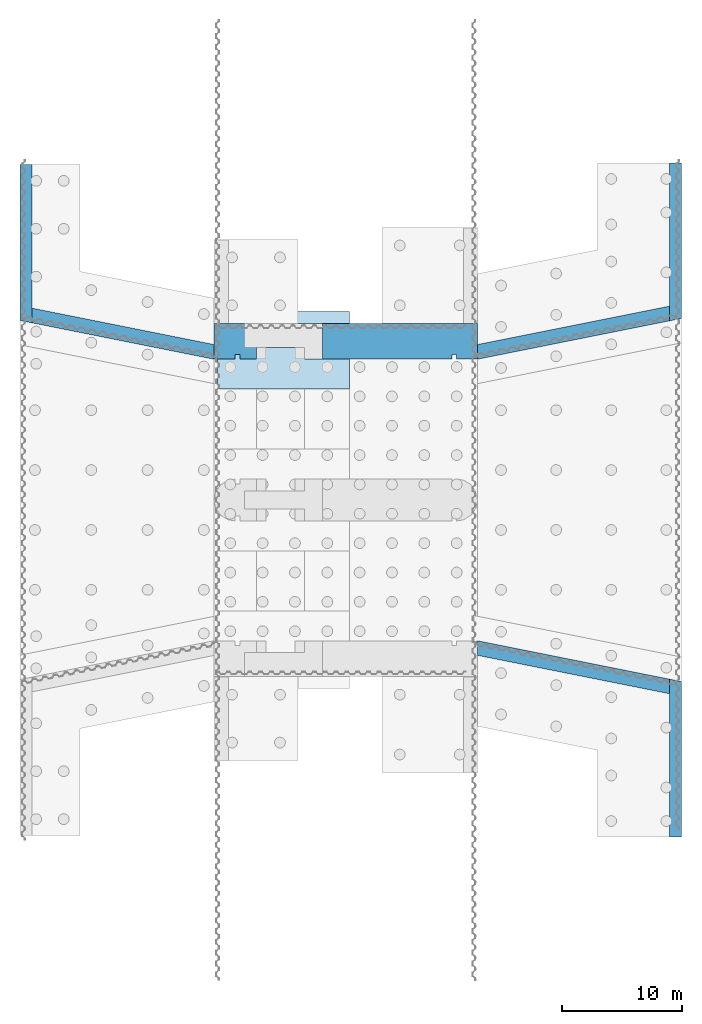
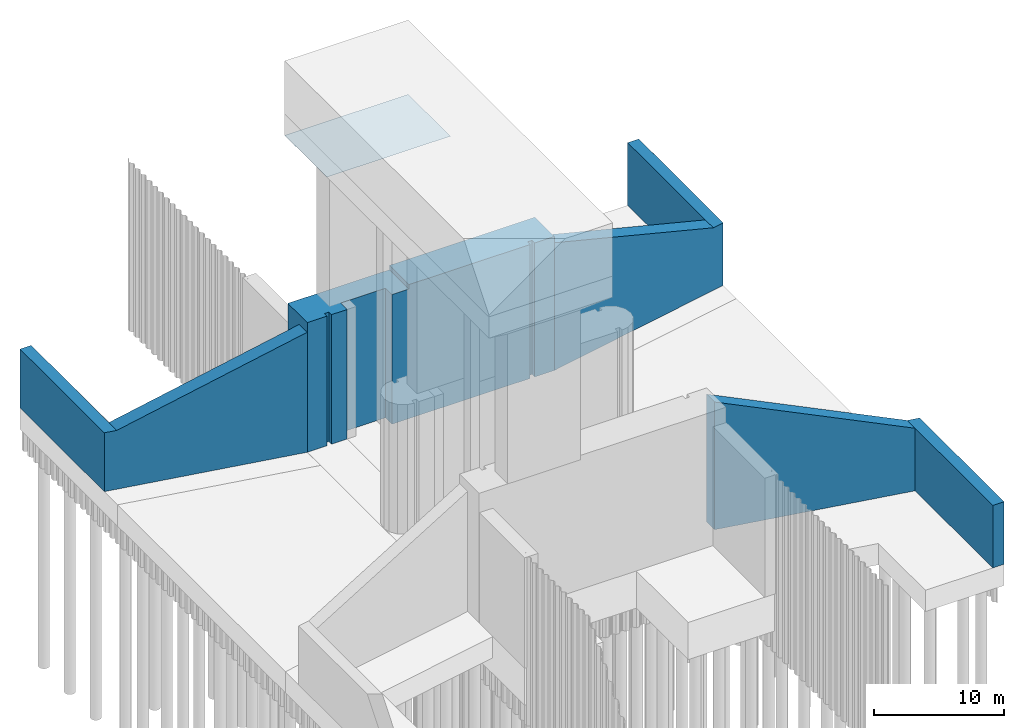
# One storey, part 9 of 9: 6 slabs.
"""IFC2X3 building model written with IfcOpenShell, lengths in millimetres."""

from ifc_helpers import new_model, entity, si_unit, converted_unit, derived_unit, direction, frame, origin, place, context, subcontext, project, spatial, faceted_brep, material, type_object, element, save


model = new_model("IFC2X3")

# Units and contexts
model_context = context("Model", 3, precision=0.01, world=origin(), true_north=direction((6.12303176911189e-17, 1.0)))
body_context = subcontext(model_context, "Body", "Model", "MODEL_VIEW")
ifc_project = project(units=[si_unit("LENGTHUNIT", "METRE", prefix="MILLI"), si_unit("AREAUNIT", "SQUARE_METRE"), si_unit("VOLUMEUNIT", "CUBIC_METRE"), converted_unit("PLANEANGLEUNIT", "DEGREE", entity("IfcRatioMeasure", 0.0174532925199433), si_unit("PLANEANGLEUNIT", "RADIAN"), dimensions=[0, 0, 0, 0, 0, 0, 0]), si_unit("MASSUNIT", "GRAM", prefix="KILO"), derived_unit("MASSDENSITYUNIT", [(si_unit("MASSUNIT", "GRAM", prefix="KILO"), 1), (si_unit("LENGTHUNIT", "METRE"), -3)]), si_unit("TIMEUNIT", "SECOND"), si_unit("FREQUENCYUNIT", "HERTZ"), si_unit("THERMODYNAMICTEMPERATUREUNIT", "DEGREE_CELSIUS"), derived_unit("THERMALTRANSMITTANCEUNIT", [(si_unit("MASSUNIT", "GRAM", prefix="KILO"), 1), (si_unit("THERMODYNAMICTEMPERATUREUNIT", "KELVIN"), -1), (si_unit("TIMEUNIT", "SECOND"), -3)]), derived_unit("VOLUMETRICFLOWRATEUNIT", [(si_unit("LENGTHUNIT", "METRE"), 3), (si_unit("TIMEUNIT", "SECOND"), -1)]), si_unit("ELECTRICCURRENTUNIT", "AMPERE"), si_unit("ELECTRICVOLTAGEUNIT", "VOLT"), si_unit("POWERUNIT", "WATT"), si_unit("FORCEUNIT", "NEWTON", prefix="KILO"), si_unit("ILLUMINANCEUNIT", "LUX"), si_unit("LUMINOUSFLUXUNIT", "LUMEN"), si_unit("LUMINOUSINTENSITYUNIT", "CANDELA"), derived_unit("USERDEFINED", [(si_unit("MASSUNIT", "GRAM", prefix="KILO"), -1), (si_unit("LENGTHUNIT", "METRE"), -2), (si_unit("TIMEUNIT", "SECOND"), 3), (si_unit("LUMINOUSFLUXUNIT", "LUMEN"), 1)]), derived_unit("LINEARVELOCITYUNIT", [(si_unit("LENGTHUNIT", "METRE"), 1), (si_unit("TIMEUNIT", "SECOND"), -1)]), si_unit("PRESSUREUNIT", "PASCAL"), derived_unit("USERDEFINED", [(si_unit("LENGTHUNIT", "METRE"), -2), (si_unit("MASSUNIT", "GRAM", prefix="KILO"), 1), (si_unit("TIMEUNIT", "SECOND"), -2)])], contexts=[model_context])

# Site, building, storey
site_placement = place(None, origin())
site = spatial("IfcSite", under=ifc_project, at=site_placement, Name="Default", CompositionType="ELEMENT")
building_placement = place(site_placement, origin())
building = spatial("IfcBuilding", under=site, at=building_placement, CompositionType="ELEMENT")
storey_placement = place(building_placement, origin())
storey = spatial("IfcBuildingStorey", under=building, at=storey_placement, Name="設計GL", CompositionType="ELEMENT", Elevation=0.0)

# Slabs
ifc_material = material(Name="コンクリート - 現場打ちコンクリート")
slab_type_1 = type_object("IfcSlabType", Name="41301_Co_端堰柱(上流)", PredefinedType="FLOOR", material=ifc_material)
slab_1_placement = place(storey_placement, frame((-53111.2636910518, -49792.3079312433, 4210.0)))
element("IfcSlab", 1, at=slab_1_placement, inside=storey, type_object=slab_type_1, Name="41301_Co_端堰柱(上流):41301_Co_端堰柱(上流)", ObjectType="41301_Co_端堰柱(上流):41301_Co_端堰柱(上流)", PredefinedType="FLOOR", context=body_context, shape_type="Brep", body=[
    faceted_brep([(9050.0, 0.0, 12200.0), (9050.0, 3000.0, 12200.0), (0.0, 3000.0, 12200.0), (0.0, 0.0, 12200.0), (1750.0, 0.0, 12200.0), (1750.0, 400.0, 12200.0), (2150.0, 400.0, 12200.0), (2150.0, 0.0, 12200.0), (3550.0, 0.0, 12200.0), (3550.0, 1000.0, 12200.0), (7550.0, 1000.0, 12200.0), (7550.0, 0.0, 12200.0), (7550.0, 1000.0, 0.0), (7550.0, 0.0, 0.0), (3550.0, 1000.0, 0.0), (3550.0, 0.0, 0.0), (2150.0, 0.0, 0.0), (2150.0, 400.0, 0.0), (1750.0, 400.0, 0.0), (1750.0, 0.0, 0.0), (0.0, 0.0, 0.0), (0.0, 3000.0, 0.0), (22000.0, 3000.0, 0.0), (22000.0, 1224.17680457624, 0.0), (22000.0, 0.412121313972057, 0.0), (22000.0, 0.0, 0.0), (20250.0, 0.0, 0.0), (20250.0, 400.0, 0.0), (19850.0, 400.0, 0.0), (19850.0, 0.0, 0.0), (22000.0, 3000.0, 12610.0), (22000.0, 0.0, 12610.0), (20250.0, 0.0, 12610.0), (20250.0, 400.0, 12610.0), (19850.0, 400.0, 12610.0), (19850.0, 0.0, 12610.0), (9050.0, 0.0, 12610.0), (9050.0, 3000.0, 12610.0)], [[[0, 1, 2, 3, 4, 5, 6, 7, 8, 9, 10, 11]], [[12, 13, 11, 10]], [[14, 12, 10, 9]], [[15, 14, 9, 8]], [[16, 15, 8, 7]], [[17, 16, 7, 6]], [[18, 17, 6, 5]], [[19, 18, 5, 4]], [[20, 19, 4, 3]], [[21, 20, 3, 2]], [[20, 21, 22, 23, 24, 25, 26, 27, 28, 29, 13, 12, 14, 15, 16, 17, 18, 19]], [[22, 30, 31, 25, 24, 23]], [[25, 31, 32, 26]], [[26, 32, 33, 27]], [[27, 33, 34, 28]], [[28, 34, 35, 29]], [[29, 35, 36, 0, 11, 13]], [[1, 0, 36, 37]], [[1, 37, 30, 22, 21, 2]], [[30, 37, 36, 35, 34, 33, 32, 31]]]),
])
slab_type_2 = type_object("IfcSlabType", Name="41901_Co_川表翼壁(上流)側壁", PredefinedType="FLOOR", material=ifc_material)
slab_2_placement = place(storey_placement, frame((-69312.6693128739, -49792.3079312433, 4210.0)))
element("IfcSlab", 2, at=slab_2_placement, inside=storey, type_object=slab_type_2, Name="41901_Co_川表翼壁(上流)側壁:41901_Co_川表翼壁(上流)側壁", ObjectType="41901_Co_川表翼壁(上流)側壁:41901_Co_川表翼壁(上流)側壁", PredefinedType="FLOOR", context=body_context, shape_type="Brep", body=[
    faceted_brep([(1000.0, 4263.76468326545, 5540.0), (1000.0, 4263.76468326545, 0.0), (1000.0, 16240.0, 0.0), (1000.0, 16240.0, 5540.0), (0.0, 16240.0, 0.0), (0.0, 16240.0, 5540.0), (0.0, 3240.0, 0.0), (0.0, 3240.0, 5540.0), (1000.0, 3040.0, 5540.0), (16200.0, 1223.76468326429, 11300.0), (16200.0, 1223.76468326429, 0.0), (16200.0, 0.0, 11300.0), (16200.0, 0.0, 0.0)], [[[0, 1, 2, 3]], [[2, 4, 5, 3]], [[4, 6, 7, 5]], [[5, 7, 8, 0, 3]], [[0, 9, 10, 1]], [[11, 8, 7, 6, 12]], [[8, 11, 9, 0]], [[11, 12, 10, 9]], [[12, 6, 4, 2, 1, 10]]]),
])
slab_type_3 = type_object("IfcSlabType", Name="42001_Co_川裏翼壁(下流)側壁", PredefinedType="FLOOR", material=ifc_material)
slab_3_placement = place(storey_placement, frame((-31112.6693072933, -89691.9415460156, 4210.0)))
element("IfcSlab", 3, at=slab_3_placement, inside=storey, type_object=slab_type_3, Name="42001_Co_川裏翼壁(下流)側壁:42001_Co_川裏翼壁(下流)側壁", ObjectType="42001_Co_川裏翼壁(下流)側壁:42001_Co_川裏翼壁(下流)側壁", PredefinedType="FLOOR", context=body_context, shape_type="Brep", body=[
    faceted_brep([(16000.0, 11976.2256601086, 6.24597760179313e-09), (16000.0, 13199.9903436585, 0.0), (16000.0, 13199.9903436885, 5890.0), (16000.0, 11976.2256601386, 5890.0), (0.0, 16399.63361477, 0.0), (0.0, 15175.8689320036, 6.23623179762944e-09), (0.0, 15175.8689320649, 12020.0), (0.0, 16399.6336148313, 12020.0)], [[[0, 1, 2, 3]], [[4, 5, 6, 7]], [[5, 4, 1, 0]], [[6, 5, 0, 3]], [[7, 6, 3, 2]], [[4, 7, 2, 1]]]),
    faceted_brep([(17000.1643311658, 0.0126412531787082, 0.0), (17000.0, 13000.0126391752, 0.0), (17000.0, 13000.0126391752, 5890.0), (17000.1643311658, 0.0126412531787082, 5890.0), (16000.151389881, 0.0, 0.0), (16000.151389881, 0.0, 5890.0), (16000.0, 11976.2256601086, 0.0), (16000.0, 11976.2256601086, 5890.0), (16000.0, 13199.9903436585, 0.0), (16000.0, 13199.9903436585, 5890.0)], [[[0, 1, 2, 3]], [[4, 0, 3, 5]], [[6, 4, 5, 7]], [[8, 6, 7, 9]], [[1, 8, 9, 2]], [[8, 1, 0, 4, 6]], [[2, 9, 7, 5, 3]]]),
])
slab_type_4 = type_object("IfcSlabType", Name="42101_Co_川裏翼壁(上流)側壁", PredefinedType="FLOOR", material=ifc_material)
slab_4_placement = place(storey_placement, frame((-31112.6693071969, -49792.3079312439, 4210.0)))
element("IfcSlab", 4, at=slab_4_placement, inside=storey, type_object=slab_type_4, Name="42101_Co_川裏翼壁(上流)側壁:42101_Co_川裏翼壁(上流)側壁", ObjectType="42101_Co_川裏翼壁(上流)側壁:42101_Co_川裏翼壁(上流)側壁", PredefinedType="FLOOR", context=body_context, shape_type="Brep", body=[
    faceted_brep([(16000.0, 4424.12141336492, 0.0), (16000.0, 4424.12141336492, 5890.0), (16000.0, 16400.3790257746, 5890.0), (16000.0, 16400.3790257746, 0.0), (17000.0, 16400.379025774, 0.0), (17000.0, 16400.379025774, 5890.0), (17000.0, 3400.37902577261, 0.0), (17000.0, 3400.37902577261, 5890.0), (16000.0, 3200.35673010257, 5890.0), (0.0, 1223.76468326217, 12020.0), (0.0, 1223.76468326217, 0.0), (0.0, 0.0, 12020.0), (0.0, 0.0, 0.0)], [[[0, 1, 2, 3]], [[4, 3, 2, 5]], [[6, 4, 5, 7]], [[2, 1, 8, 7, 5]], [[9, 1, 0, 10]], [[8, 11, 12, 6, 7]], [[11, 8, 1, 9]], [[6, 12, 10, 0, 3, 4]], [[12, 11, 9, 10]]]),
])
slab_type_5 = type_object("IfcSlabType", Name="60501_Co_操作台(上流)", PredefinedType="FLOOR", material=ifc_material)
slab_5_placement = place(storey_placement, frame((-52811.263688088, -52292.3079314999, 30520.0)))
element("IfcSlab", 5, at=slab_5_placement, inside=storey, type_object=slab_type_5, Name="60501_Co_操作台(上流):60501_Co_操作台(上流)", ObjectType="60501_Co_操作台(上流):60501_Co_操作台(上流)", PredefinedType="FLOOR", context=body_context, shape_type="Brep", body=[
    faceted_brep([(11000.0, 6500.0, 1000.0), (0.0, 6500.0, 1000.0), (0.0, 0.0, 1000.0), (11000.0, 0.0, 1000.0), (2250.0, 5500.0, 1.55499719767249e-09), (8750.0, 5500.0, 1.55499719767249e-09), (8750.0, 2500.0, 1.55499719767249e-09), (2250.0, 2500.0, 1.55499719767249e-09)], [[[0, 1, 2, 3]], [[4, 5, 6, 7]], [[5, 4, 1, 0]], [[4, 7, 2, 1]], [[7, 6, 3, 2]], [[6, 5, 0, 3]]]),
])
slab_type_6 = type_object("IfcSlabType", Name="42101_Co_川裏翼壁(上流)側壁", PredefinedType="FLOOR", material=ifc_material)
slab_6_placement = place(storey_placement, frame((-31111.2636853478, -49791.8958099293, 4210.0)))
element("IfcSlab", 6, at=slab_6_placement, inside=storey, type_object=slab_type_6, Name="42101_Co_川裏翼壁(上流)側壁:42101_Co_川裏翼壁(上流)側壁", ObjectType="42101_Co_川裏翼壁(上流)側壁:42101_Co_川裏翼壁(上流)側壁", PredefinedType="FLOOR", context=body_context, shape_type="Brep", body=[
    faceted_brep([(15997.9396200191, 4423.70929205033, 0.0), (15997.9396200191, 4423.70929205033, 5890.0), (15997.9396200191, 16399.96690446, 5890.0), (15997.9396200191, 16399.96690446, 0.0), (16997.9396200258, 16399.9669044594, 5890.0), (16997.9396200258, 16399.9669044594, 0.0), (16997.9396200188, 3399.96690445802, 5890.0), (16997.9396200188, 3399.96690445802, 0.0), (15997.9396200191, 3199.94460878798, 5890.0), (0.0, 1223.76468326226, 0.0), (0.0, 1223.76468326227, 12019.2106181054), (0.0, 0.0, 12019.2106181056), (0.0, 0.0, 0.0)], [[[0, 1, 2, 3]], [[3, 2, 4, 5]], [[5, 4, 6, 7]], [[2, 1, 8, 6, 4]], [[1, 0, 9, 10]], [[7, 6, 8, 11, 12]], [[8, 1, 10, 11]], [[0, 3, 5, 7, 12, 9]], [[10, 9, 12, 11]]]),
])

save(model, "model.ifc")
